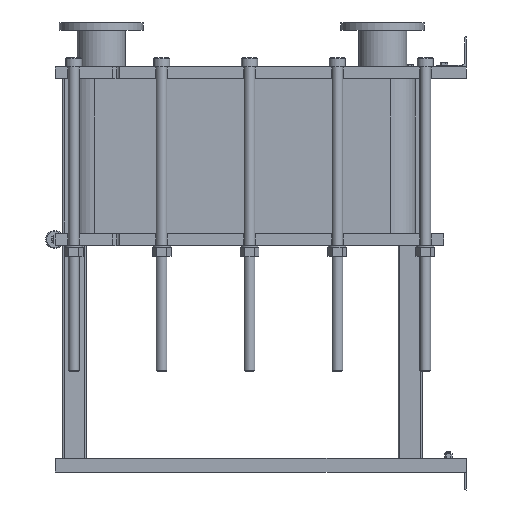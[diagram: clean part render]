
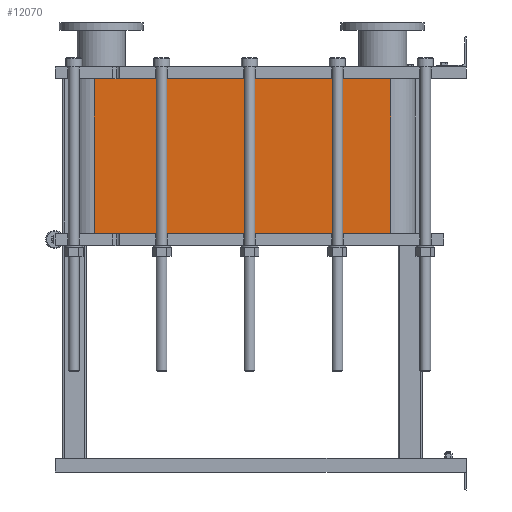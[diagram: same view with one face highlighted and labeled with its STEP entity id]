
A CAD part, left-side view. The second image highlights one B-rep face of the part: STEP entity #12070.
In plain terms, the highlighted planar face has unit normal (-1, 0, 0).
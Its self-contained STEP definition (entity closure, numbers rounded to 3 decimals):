
#1064=LINE('',#21140,#2164);
#1065=LINE('',#21144,#2165);
#1066=LINE('',#21146,#2166);
#1067=LINE('',#21147,#2167);
#2164=VECTOR('',#15790,10.);
#2165=VECTOR('',#15795,10.);
#2166=VECTOR('',#15796,10.);
#2167=VECTOR('',#15797,10.);
#3304=FACE_OUTER_BOUND('',#4091,.T.);
#4091=EDGE_LOOP('',(#9793,#9794,#9795,#9796));
#5677=VERTEX_POINT('',#21137);
#5678=VERTEX_POINT('',#21139);
#5679=VERTEX_POINT('',#21143);
#5680=VERTEX_POINT('',#21145);
#7118=EDGE_CURVE('',#5678,#5677,#1064,.T.);
#7120=EDGE_CURVE('',#5677,#5679,#1065,.T.);
#7121=EDGE_CURVE('',#5680,#5679,#1066,.T.);
#7122=EDGE_CURVE('',#5680,#5678,#1067,.T.);
#9793=ORIENTED_EDGE('',*,*,#7120,.T.);
#9794=ORIENTED_EDGE('',*,*,#7121,.F.);
#9795=ORIENTED_EDGE('',*,*,#7122,.T.);
#9796=ORIENTED_EDGE('',*,*,#7118,.T.);
#11441=PLANE('',#13191);
#12070=ADVANCED_FACE('',(#3304),#11441,.T.);
#13191=AXIS2_PLACEMENT_3D('',#21142,#15793,#15794);
#15790=DIRECTION('',(0.,0.,-1.));
#15793=DIRECTION('center_axis',(-1.,0.,0.));
#15794=DIRECTION('ref_axis',(0.,1.,0.));
#15795=DIRECTION('',(0.,-1.,0.));
#15796=DIRECTION('',(0.,0.,-1.));
#15797=DIRECTION('',(0.,1.,0.));
#21137=CARTESIAN_POINT('',(-248.152,1243.818,-517.5));
#21139=CARTESIAN_POINT('',(-248.152,1243.818,0.));
#21140=CARTESIAN_POINT('',(-248.152,1243.818,0.));
#21142=CARTESIAN_POINT('Origin',(-248.152,251.818,0.));
#21143=CARTESIAN_POINT('',(-248.152,251.818,-517.5));
#21144=CARTESIAN_POINT('',(-248.152,499.818,-517.5));
#21145=CARTESIAN_POINT('',(-248.152,251.818,0.));
#21146=CARTESIAN_POINT('',(-248.152,251.818,0.));
#21147=CARTESIAN_POINT('',(-248.152,251.818,0.));
